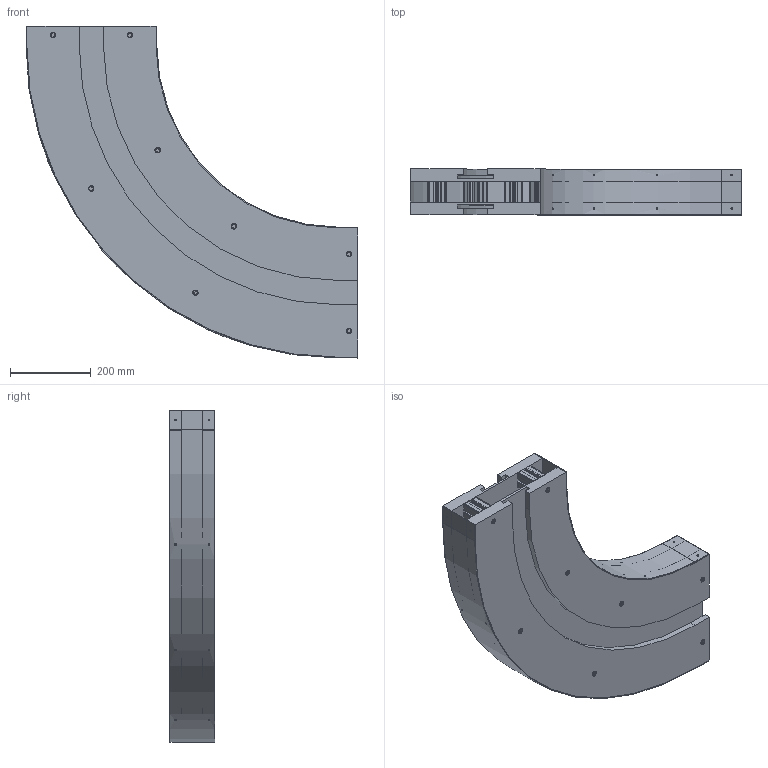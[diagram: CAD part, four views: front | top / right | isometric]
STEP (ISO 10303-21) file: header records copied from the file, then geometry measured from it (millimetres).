
FILE_DESCRIPTION (( 'STEP AP214' ), '1' );
FILE_NAME ('2000.1200.490.STEP', '2021-03-25T10:56:27', ( 'Localadmin' ), ( 'Microsoft' ), 'SwSTEP 2.0', 'SolidWorks 2018', '' );
FILE_SCHEMA (( 'AUTOMOTIVE_DESIGN' ));
Length unit declared in the file: millimetre
Products named in the file (6): 2000.1200.492_MONTAGGIO; 2000.1200.491_MONTAGGIO; 2000.001.401_Default<Lavorato>; 2000.1200.404_2000.1200.404; 2000.1200.490; VITI TCEI UNI 5931 INOX_M8x35 UNI 5931 INOX
Assembly tree (28 placements, depth 2):
  2000.1200.490
    2000.1200.404_2000.1200.404  x2
    2000.001.401_Default<Lavorato>  x8
    2000.1200.491_MONTAGGIO
    2000.1200.492_MONTAGGIO
    VITI TCEI UNI 5931 INOX_M8x35 UNI 5931 INOX  x16
Bounding box: 822 x 113 x 822.07 mm (x, y, z)
Volume: 17945520.1 mm3; surface area: 2982320.5 mm2
Topology: 30 solids, 30 shells, 1332 faces, 3592 edges, 2368 vertices
Faces by surface type: plane 816, cylinder 428, torus 32, cone 32, bspline 24
Entity records: 15818 total; most frequent: CARTESIAN_POINT 7071, ORIENTED_EDGE 1760, DIRECTION 1676, EDGE_CURVE 880, AXIS2_PLACEMENT_3D 585, VERTEX_POINT 580, VECTOR 506, LINE 506
